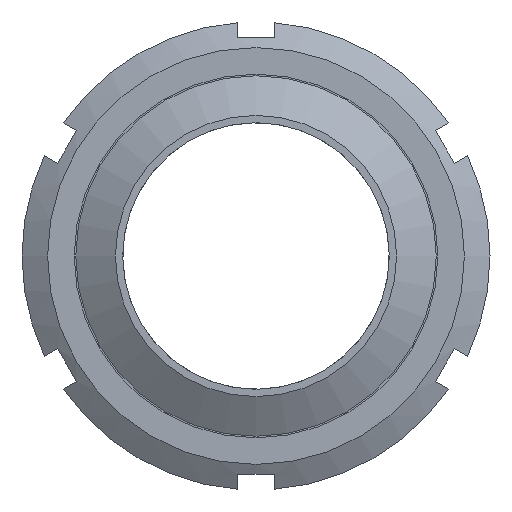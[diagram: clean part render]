
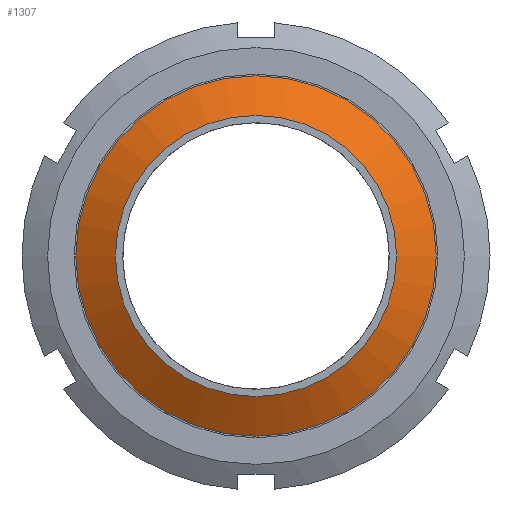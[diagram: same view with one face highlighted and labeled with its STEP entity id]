
A CAD part, front view. The second image highlights one B-rep face of the part: STEP entity #1307.
In plain terms, the highlighted conical face has half-angle 60 degrees and reference radius 50.725 mm.
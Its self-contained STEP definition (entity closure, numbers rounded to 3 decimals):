
#97=LINE('',#2195,#141);
#141=VECTOR('',#1781,50.725);
#183=CONICAL_SURFACE('',#1527,50.725,1.047);
#245=FACE_OUTER_BOUND('',#316,.T.);
#316=EDGE_LOOP('',(#916,#917,#918,#919,#920,#921));
#414=CIRCLE('',#1525,57.);
#415=CIRCLE('',#1526,57.);
#416=CIRCLE('',#1528,44.45);
#417=CIRCLE('',#1529,44.45);
#527=VERTEX_POINT('',#2185);
#528=VERTEX_POINT('',#2186);
#529=VERTEX_POINT('',#2191);
#530=VERTEX_POINT('',#2192);
#679=EDGE_CURVE('',#527,#528,#414,.T.);
#680=EDGE_CURVE('',#528,#527,#415,.T.);
#682=EDGE_CURVE('',#529,#530,#416,.T.);
#683=EDGE_CURVE('',#530,#529,#417,.T.);
#684=EDGE_CURVE('',#530,#528,#97,.T.);
#916=ORIENTED_EDGE('',*,*,#682,.F.);
#917=ORIENTED_EDGE('',*,*,#683,.F.);
#918=ORIENTED_EDGE('',*,*,#684,.T.);
#919=ORIENTED_EDGE('',*,*,#680,.T.);
#920=ORIENTED_EDGE('',*,*,#679,.T.);
#921=ORIENTED_EDGE('',*,*,#684,.F.);
#1307=ADVANCED_FACE('',(#245),#183,.T.);
#1525=AXIS2_PLACEMENT_3D('',#2187,#1770,#1771);
#1526=AXIS2_PLACEMENT_3D('',#2188,#1772,#1773);
#1527=AXIS2_PLACEMENT_3D('',#2190,#1775,#1776);
#1528=AXIS2_PLACEMENT_3D('',#2193,#1777,#1778);
#1529=AXIS2_PLACEMENT_3D('',#2194,#1779,#1780);
#1770=DIRECTION('center_axis',(0.,-1.,0.));
#1771=DIRECTION('ref_axis',(1.,0.,0.));
#1772=DIRECTION('center_axis',(0.,-1.,0.));
#1773=DIRECTION('ref_axis',(1.,0.,0.));
#1775=DIRECTION('center_axis',(0.,1.,0.));
#1776=DIRECTION('ref_axis',(1.,0.,0.));
#1777=DIRECTION('center_axis',(0.,-1.,0.));
#1778=DIRECTION('ref_axis',(1.,0.,0.));
#1779=DIRECTION('center_axis',(0.,-1.,0.));
#1780=DIRECTION('ref_axis',(1.,0.,0.));
#1781=DIRECTION('',(-0.866,0.5,0.));
#2185=CARTESIAN_POINT('',(57.,48.,0.));
#2186=CARTESIAN_POINT('',(-57.,48.,0.));
#2187=CARTESIAN_POINT('Origin',(0.,48.,0.));
#2188=CARTESIAN_POINT('Origin',(0.,48.,0.));
#2190=CARTESIAN_POINT('Origin',(0.,44.377,0.));
#2191=CARTESIAN_POINT('',(44.45,40.754,0.));
#2192=CARTESIAN_POINT('',(-44.45,40.754,0.));
#2193=CARTESIAN_POINT('Origin',(0.,40.754,0.));
#2194=CARTESIAN_POINT('Origin',(0.,40.754,0.));
#2195=CARTESIAN_POINT('',(-50.725,44.377,0.));
